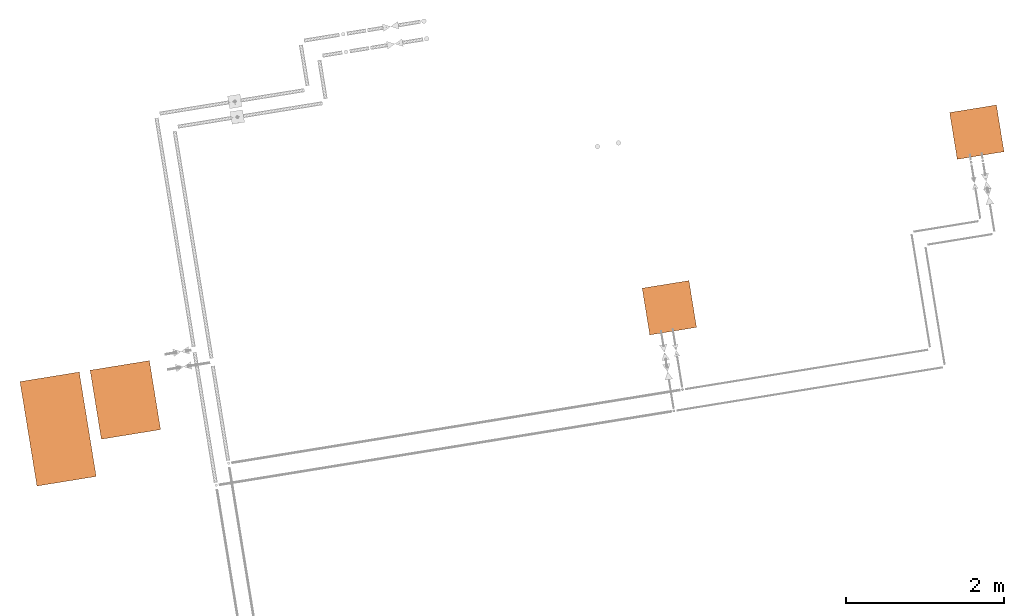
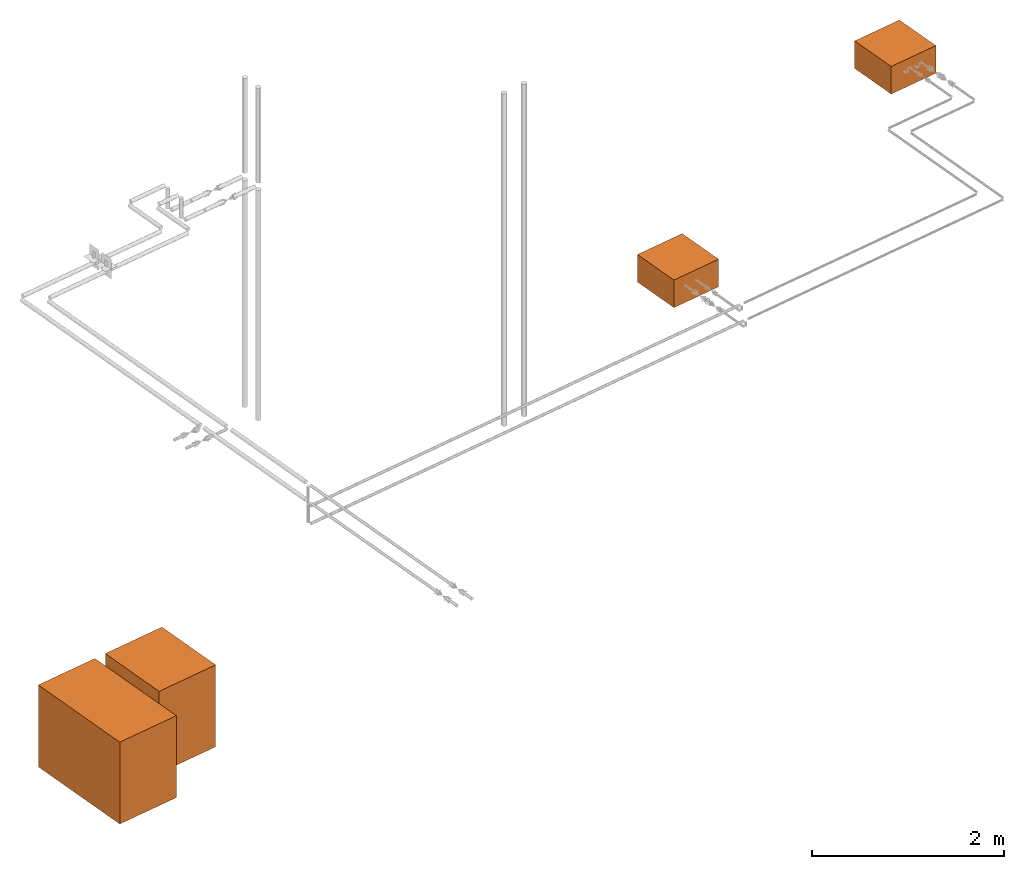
# One storey, part 8 of 8: 4 proxies.
"""IFC2X3 building model written with IfcOpenShell, lengths in millimetres."""

import ifcopenshell
import ifcopenshell.guid

model = None  # the IFC model being written
_history = None  # IfcOwnerHistory: only IFC2X3 demands one
_inside = {}  # id of a spatial element -> (the spatial element, [elements in it])
_under = {}  # id of a project, library or spatial element -> (it, [spatial elements below it])
_declared = {}  # id of a project -> (the project, [libraries it declares])
_typed = {}  # id of a type object -> (the type object, [elements of that type])
_made_of = {}  # id of a material, layer set ... -> (it, [elements and type objects made of it])


def new_model(schema):
    """Start an empty IFC model of exactly this schema.

    Asked for "IFC4X3", IfcOpenShell would pick the latest addendum, in which some entities
    have other attributes; the version numbers below select the first issue.
    IFC2X3 requires an IfcOwnerHistory on every rooted entity: one is made here for all.
    """
    global model, _history
    if schema == "IFC4X3":
        model = ifcopenshell.file(schema_version=(4, 3, 0, 0))
    else:
        model = ifcopenshell.file(schema=schema)
    _inside.clear()
    _under.clear()
    _declared.clear()
    _typed.clear()
    _made_of.clear()
    _history = None
    if model.schema == "IFC2X3":
        org = make("IfcOrganization", Name="unknown")
        user = make(
            "IfcPersonAndOrganization",
            ThePerson=make("IfcPerson", FamilyName="unknown"),
            TheOrganization=org,
        )
        app = make(
            "IfcApplication",
            ApplicationDeveloper=org,
            Version="unknown",
            ApplicationFullName="unknown",
            ApplicationIdentifier="unknown",
        )
        _history = make(
            "IfcOwnerHistory",
            OwningUser=user,
            OwningApplication=app,
            ChangeAction="ADDED",
            CreationDate=0,
        )
    return model


def make(cls, **values):
    """One entity of the class cls with the attributes given. An attribute that is None is left unset."""
    return model.create_entity(
        cls, **{name: value for name, value in values.items() if value is not None}
    )


def entity(cls, *values):
    """Any entity or typed value of the class cls, its attributes in the order of the schema. None: left unset."""
    e = model.create_entity(cls)
    for i, value in enumerate(values):
        if value is not None:
            e[i] = value
    return e


def rooted(cls, **values):
    """An entity with a GlobalId (a new one), such as an element, a storey or a relation."""
    return make(cls, GlobalId=ifcopenshell.guid.new(), OwnerHistory=_history, **values)


def si_unit(unit_type, name, prefix=None):
    """IfcSIUnit, for example si_unit("LENGTHUNIT", "METRE", prefix="MILLI")."""
    return make("IfcSIUnit", UnitType=unit_type, Prefix=prefix, Name=name)


def converted_unit(unit_type, name, factor, base, dimensions=None, offset=None):
    """IfcConversionBasedUnit, such as the inch: factor (a typed value) times the base unit."""
    return make(
        "IfcConversionBasedUnit"
        if offset is None
        else "IfcConversionBasedUnitWithOffset",
        ConversionOffset=offset,
        Dimensions=None
        if dimensions is None
        else entity("IfcDimensionalExponents", *dimensions),
        UnitType=unit_type,
        Name=name,
        ConversionFactor=make(
            "IfcMeasureWithUnit", ValueComponent=factor, UnitComponent=base
        ),
    )


def derived_unit(unit_type, elements):
    """IfcDerivedUnit: a product of units, each with its exponent."""
    return make(
        "IfcDerivedUnit",
        Elements=[
            make("IfcDerivedUnitElement", Unit=unit, Exponent=power)
            for unit, power in elements
        ],
        UnitType=unit_type,
    )


def assignment(units):
    """IfcUnitAssignment: the units of a project."""
    return None if units is None else make("IfcUnitAssignment", Units=units)


def point(xyz):
    """IfcCartesianPoint."""
    return None if xyz is None else make("IfcCartesianPoint", Coordinates=xyz)


def direction(xyz):
    """IfcDirection."""
    return None if xyz is None else make("IfcDirection", DirectionRatios=xyz)


def frame(location, z_axis=None, x_axis=None):
    """IfcAxis2Placement3D, a coordinate frame: its origin and axes. An axis left out is left unset."""
    return make(
        "IfcAxis2Placement3D",
        Location=point(location),
        Axis=direction(z_axis),
        RefDirection=direction(x_axis),
    )


def frame_2d(location, x_axis=None):
    """IfcAxis2Placement2D, a coordinate frame in the plane: its origin and x axis."""
    return make(
        "IfcAxis2Placement2D", Location=point(location), RefDirection=direction(x_axis)
    )


def origin():
    """The frame at (0, 0, 0) with its axes left unset."""
    return frame((0.0, 0.0, 0.0))


def origin_with_axes():
    """The frame at (0, 0, 0) with the z axis (0, 0, 1) and the x axis (1, 0, 0) written out."""
    return frame((0.0, 0.0, 0.0), z_axis=(0.0, 0.0, 1.0), x_axis=(1.0, 0.0, 0.0))


def origin_2d_with_axis():
    """The frame at (0, 0) in the plane with the x axis (1, 0) written out."""
    return frame_2d((0.0, 0.0), x_axis=(1.0, 0.0))


def place(relative_to, where):
    """IfcLocalPlacement: puts the frame where relative to a parent placement (None: the world)."""
    return make(
        "IfcLocalPlacement", PlacementRelTo=relative_to, RelativePlacement=where
    )


def context(
    kind, dimensions, precision=None, world=None, true_north=None, identifier=None
):
    """IfcGeometricRepresentationContext, for example the 3D "Model" context."""
    return make(
        "IfcGeometricRepresentationContext",
        ContextIdentifier=identifier,
        ContextType=kind,
        CoordinateSpaceDimension=dimensions,
        Precision=precision,
        WorldCoordinateSystem=world,
        TrueNorth=true_north,
    )


def subcontext(parent, identifier, kind, view, scale=None):
    """IfcGeometricRepresentationSubContext, for example "Body" below "Model"."""
    return make(
        "IfcGeometricRepresentationSubContext",
        ContextIdentifier=identifier,
        ContextType=kind,
        ParentContext=parent,
        TargetScale=scale,
        TargetView=view,
    )


def project(units=None, contexts=None):
    """IfcProject with its units and contexts."""
    return rooted(
        "IfcProject",
        Name="project",
        RepresentationContexts=contexts,
        UnitsInContext=assignment(units),
    )


def spatial(cls, under=None, at=None, **own):
    """A site, building, storey or space (cls), placed at a placement, below another one or the project."""
    s = rooted(cls, ObjectPlacement=at, **own)
    if under is not None:
        _under.setdefault(under.id(), (under, []))[1].append(s)
    return s


def profile(cls, at=None, kind="AREA", **sizes):
    """A parametric profile (cls). Its sizes go by their IFC names, for example OverallWidth=200.0."""
    return make(cls, ProfileType=kind, Position=at, **sizes)


def rectangle(**sizes):
    """IfcRectangleProfileDef."""
    return profile("IfcRectangleProfileDef", **sizes)


def extrude(swept, where, along, depth):
    """IfcExtrudedAreaSolid: the profile swept, set in the frame where, extruded along a direction by depth."""
    return make(
        "IfcExtrudedAreaSolid",
        SweptArea=swept,
        Position=where,
        ExtrudedDirection=direction(along),
        Depth=depth,
    )


def shape(context_of_items, identifier, shape_type, items):
    """IfcShapeRepresentation: the items that make up one representation, for example the "Body"."""
    return make(
        "IfcShapeRepresentation",
        ContextOfItems=context_of_items,
        RepresentationIdentifier=identifier,
        RepresentationType=shape_type,
        Items=items,
    )


def source(mapping_origin, context_of_items, identifier, shape_type, items):
    """IfcRepresentationMap: a shape defined once, which mapped items show again and again."""
    return make(
        "IfcRepresentationMap",
        MappingOrigin=mapping_origin,
        MappedRepresentation=shape(context_of_items, identifier, shape_type, items),
    )


def transform(
    local_origin,
    x_axis=None,
    y_axis=None,
    z_axis=None,
    scale=None,
    scale2=None,
    scale3=None,
    uniform=True,
):
    """IfcCartesianTransformationOperator3D, or its non-uniform kind. x_axis, y_axis, z_axis: its Axis1, 2, 3."""
    if uniform:
        return make(
            "IfcCartesianTransformationOperator3D",
            Axis1=direction(x_axis),
            Axis2=direction(y_axis),
            LocalOrigin=point(local_origin),
            Scale=scale,
            Axis3=direction(z_axis),
        )
    return make(
        "IfcCartesianTransformationOperator3DnonUniform",
        Axis1=direction(x_axis),
        Axis2=direction(y_axis),
        LocalOrigin=point(local_origin),
        Scale=scale,
        Axis3=direction(z_axis),
        Scale2=scale2,
        Scale3=scale3,
    )


def mapped(mapping_source, mapping_target):
    """IfcMappedItem: shows the shape of a source again, moved by a transform."""
    return make(
        "IfcMappedItem", MappingSource=mapping_source, MappingTarget=mapping_target
    )


def material(Name=None, Category=None):
    """IfcMaterial."""
    return make("IfcMaterial", Name=Name, Category=Category)


def made_of(thing, what):
    """Note that an element or type object is made of a material, layer set ...; save() writes the relation."""
    if what is not None:
        _made_of.setdefault(what.id(), (what, []))[1].append(thing)
    return thing


def type_object(cls, material=None, **own):
    """A type object (cls), such as IfcWallType, which elements share."""
    return made_of(rooted(cls, **own), material)


def element(
    cls,
    number,
    at=None,
    inside=None,
    cuts=None,
    type_object=None,
    material=None,
    context=None,
    identifier="Body",
    shape_type=None,
    held_by="IfcProductDefinitionShape",
    body=None,
    shapes=None,
    **own,
):
    """One element of the class cls, such as IfcWall. Its Tag is "e" and its number.

    at: its placement. inside: the storey or other place that contains it. cuts: it is an
    opening in that element (IfcRelVoidsElement). A single representation is given by context,
    identifier, shape_type and body (its items); several are given by shapes. held_by: the class
    of the entity that holds the representations. save() writes the other relations.
    """
    e = rooted(cls, Tag="e%d" % number, ObjectPlacement=at, **own)
    if body is not None:
        shapes = [shape(context, identifier, shape_type, body)]
    if shapes is not None:
        e.Representation = make(held_by, Representations=shapes)
    if inside is not None:
        _inside.setdefault(inside.id(), (inside, []))[1].append(e)
    if cuts is not None:
        rooted(
            "IfcRelVoidsElement", RelatingBuildingElement=cuts, RelatedOpeningElement=e
        )
    if type_object is not None:
        _typed.setdefault(type_object.id(), (type_object, []))[1].append(e)
    return made_of(e, material)


def aggregate(whole, parts):
    """IfcRelAggregates: a whole, such as a stair, and the parts it consists of."""
    return rooted("IfcRelAggregates", RelatingObject=whole, RelatedObjects=parts)


def save(model, path):
    """Write the relations noted so far, then the file.

    IfcRelAggregates (storeys below a building ...), IfcRelContainedInSpatialStructure (elements
    in a storey), IfcRelDefinesByType, IfcRelAssociatesMaterial and IfcRelDeclares: one each for
    every whole, place, type object, material and project.
    """
    for whole, parts in _under.values():
        aggregate(whole, parts)
    for where, things in _inside.values():
        rooted(
            "IfcRelContainedInSpatialStructure",
            RelatedElements=things,
            RelatingStructure=where,
        )
    for kind, things in _typed.values():
        rooted("IfcRelDefinesByType", RelatedObjects=things, RelatingType=kind)
    for what, things in _made_of.values():
        rooted("IfcRelAssociatesMaterial", RelatedObjects=things, RelatingMaterial=what)
    for by, libraries in _declared.values():
        rooted("IfcRelDeclares", RelatingContext=by, RelatedDefinitions=libraries)
    model.write(path)


model = new_model("IFC2X3")

# Units and contexts
model_context = context("Model", 3, precision=0.01, world=origin(), true_north=direction((6.12323399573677e-17, 1.0)))
plan_context = context("Plan", 3, precision=1e-05, world=origin_with_axes())
body_context = subcontext(model_context, "Body", "Model", "MODEL_VIEW")
ifc_project = project(units=[converted_unit("PLANEANGLEUNIT", "DEGREE", entity("IfcPositiveLengthMeasure", 0.0174532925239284), si_unit("PLANEANGLEUNIT", "RADIAN"), dimensions=[0, 0, 0, 0, 0, 0, 0]), si_unit("AREAUNIT", "SQUARE_METRE"), si_unit("LENGTHUNIT", "METRE", prefix="MILLI"), si_unit("MASSUNIT", "GRAM", prefix="KILO"), si_unit("POWERUNIT", "WATT"), si_unit("PRESSUREUNIT", "PASCAL", prefix="KILO"), si_unit("FORCEUNIT", "NEWTON", prefix="KILO"), si_unit("ELECTRICVOLTAGEUNIT", "VOLT"), si_unit("ELECTRICCURRENTUNIT", "AMPERE"), si_unit("THERMODYNAMICTEMPERATUREUNIT", "DEGREE_CELSIUS"), si_unit("TIMEUNIT", "SECOND"), si_unit("VOLUMEUNIT", "CUBIC_METRE"), derived_unit("LINEARVELOCITYUNIT", [(si_unit("LENGTHUNIT", "METRE"), 1), (si_unit("TIMEUNIT", "SECOND"), -1)]), derived_unit("VOLUMETRICFLOWRATEUNIT", [(si_unit("VOLUMEUNIT", "CUBIC_METRE"), 1), (si_unit("TIMEUNIT", "SECOND"), -1)]), derived_unit("THERMALTRANSMITTANCEUNIT", [(si_unit("POWERUNIT", "WATT"), 1), (si_unit("THERMODYNAMICTEMPERATUREUNIT", "KELVIN"), -1), (si_unit("AREAUNIT", "SQUARE_METRE"), -1)]), derived_unit("SOUNDPRESSUREUNIT", [(si_unit("PRESSUREUNIT", "PASCAL"), 1)])], contexts=[model_context, plan_context])

# Site, building, storey
site_placement = place(None, frame((-0.00071070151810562, 0.00438415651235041, 0.0), z_axis=(0.0, 0.0, 1.0), x_axis=(-0.160236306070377, 0.987078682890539, 0.0)))
site = spatial("IfcSite", under=ifc_project, at=site_placement, Name="Default", CompositionType="ELEMENT")
building_placement = place(site_placement, origin_with_axes())
building = spatial("IfcBuilding", under=site, at=building_placement, CompositionType="ELEMENT")
storey_placement = place(building_placement, frame((0.0, 0.0, 50999.9999999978), z_axis=(0.0, 0.0, 1.0), x_axis=(1.0, 0.0, 0.0)))
storey = spatial("IfcBuildingStorey", under=building, at=storey_placement, Name="Nivå D", CompositionType="ELEMENT", Elevation=50999.9999999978)

# Proxies
ifc_material = material(Name="<Unnamed>")
building_element_proxy_type_1 = type_object("IfcBuildingElementProxyType", Name="FANCOIL--LC006T:FANCOIL--LC006T", PredefinedType="NOTDEFINED", material=ifc_material)
shared_shape_1 = source(origin(), body_context, "Body", "SweptSolid", [
    extrude(rectangle(XDim=600.0, YDim=600.0, at=origin_2d_with_axis()), frame((300.0, 300.0, 0.0), z_axis=(0.0, 0.0, 1.0), x_axis=(0.0, 1.0, 0.0)), (0.0, 0.0, 1.0), 350.0),
])
for number, where, z_axis, x_axis in (
    (1, (773369.47928963, -597465.122116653, 2680.0), (0.0, 0.0, 1.0), (1.0, 0.0, 0.0)),
    (2, (774941.103103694, -601665.114304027, 2680.0), (0.0, 0.0, 1.0), (1.0, 0.0, 0.0)),
):
    element("IfcBuildingElementProxy", number, at=place(storey_placement, frame(where, z_axis=z_axis, x_axis=x_axis)), inside=storey, type_object=building_element_proxy_type_1, material=ifc_material, Name="FANCOIL--LC006T:FANCOIL--LC006T", ObjectType="FANCOIL--LC006T:FANCOIL--LC006T", context=body_context, shape_type="MappedRepresentation", body=[
        mapped(shared_shape_1, transform((0.0, 0.0, 0.0), scale=1.0)),
    ])
building_element_proxy_type_2 = type_object("IfcBuildingElementProxyType", Name="KJØLEAGGREGAT--IL - Starcold Aggregat:KJØLEAGGREGATMC LC1A B 020 MTIL - Starcold AggregaT", PredefinedType="NOTDEFINED", material=ifc_material)
shared_shape_2 = source(origin(), body_context, "Body", "SweptSolid", [
    extrude(rectangle(XDim=885.0, YDim=760.0, at=origin_2d_with_axis()), frame((-442.5, 0.0, 0.0), z_axis=(0.0, 0.0, 1.0), x_axis=(-1.0, 0.0, 0.0)), (0.0, 0.0, 1.0), 1040.02183754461),
])
proxy_1_placement = place(storey_placement, frame((774064.018888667, -590177.48173883, 0.0), z_axis=(0.0, 0.0, 1.0), x_axis=(1.0, 0.0, 0.0)))
element("IfcBuildingElementProxy", 3, at=proxy_1_placement, inside=storey, type_object=building_element_proxy_type_2, material=ifc_material, Name="KJØLEAGGREGAT--IL - Starcold Aggregat:KJØLEAGGREGATMC LC1A B 020 MTIL - Starcold AggregaT", ObjectType="KJØLEAGGREGAT--IL - Starcold Aggregat:KJØLEAGGREGATMC LC1A B 020 MTIL - Starcold AggregaT", context=body_context, shape_type="MappedRepresentation", body=[
    mapped(shared_shape_2, transform((0.0, 0.0, 0.0), scale=1.0)),
])
building_element_proxy_type_3 = type_object("IfcBuildingElementProxyType", Name="KJØLEAGGREGAT--IL - Starcold Aggregat:KJØLEAGGREGATMC LC4 B 050 MTIL - Starcold AggregaT", PredefinedType="NOTDEFINED", material=ifc_material)
shared_shape_3 = source(origin(), body_context, "Body", "SweptSolid", [
    extrude(rectangle(XDim=1340.0, YDim=760.0, at=origin_2d_with_axis()), frame((-670.0, 0.0, 0.0), z_axis=(0.0, 0.0, 1.0), x_axis=(-1.0, 0.0, 0.0)), (0.0, 0.0, 1.0), 1040.02183754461),
])
proxy_2_placement = place(storey_placement, frame((774064.018888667, -589277.481738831, 0.0), z_axis=(0.0, 0.0, 1.0), x_axis=(1.0, 0.0, 0.0)))
element("IfcBuildingElementProxy", 4, at=proxy_2_placement, inside=storey, type_object=building_element_proxy_type_3, material=ifc_material, Name="KJØLEAGGREGAT--IL - Starcold Aggregat:KJØLEAGGREGATMC LC4 B 050 MTIL - Starcold AggregaT", ObjectType="KJØLEAGGREGAT--IL - Starcold Aggregat:KJØLEAGGREGATMC LC4 B 050 MTIL - Starcold AggregaT", context=body_context, shape_type="MappedRepresentation", body=[
    mapped(shared_shape_3, transform((0.0, 0.0, 0.0), scale=1.0)),
])

save(model, "model.ifc")
